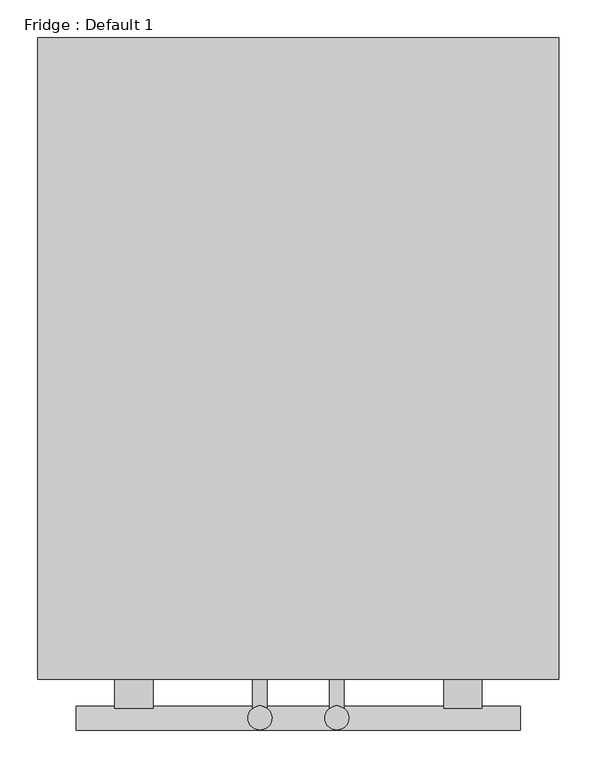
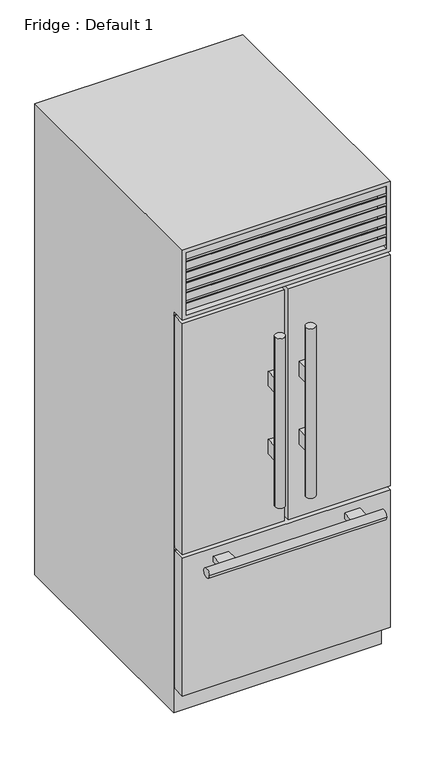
"""IFC4 building model written with IfcOpenShell, lengths in millimetres: proxy geometry, Fridge : Default 1."""

from ifc_helpers import new_model, si_unit, frame, origin, place, context, project, spatial, polyline, circle_curve, ellipse_curve, outline, extrude, faceted_brep, source, transform, mapped, element, save
from ifc_brep_helpers import plane_surface, cylinder_surface, advanced_brep


def fridge_default_1_1eb3d78d(model_context):
    return source(origin(), model_context, "Body", "SolidModel", [
        extrude(outline(polyline([(-344.3405375, -902.2654366), (-6.35, -902.2654366), (-6.35, -946.7154366), (-344.3405375, -946.7154366), (-344.3405375, -902.2654366)])), frame((0.0, 0.0, 584.2), z_axis=(0.0, 0.0, 1.0), x_axis=(1.0, 0.0, 0.0)), (0.0, 0.0, 1.0), 809.625),
        extrude(outline(polyline([(6.35, -902.2654366), (344.3405375, -902.2654366), (344.3405375, -946.7154366), (6.35, -946.7154366), (6.35, -902.2654366)])), frame((0.0, 0.0, 584.2), z_axis=(0.0, 0.0, 1.0), x_axis=(1.0, 0.0, 0.0)), (0.0, 0.0, 1.0), 809.625),
        extrude(outline(polyline([(-344.3405375, -902.2654366), (344.3405375, -902.2654366), (344.3405375, -946.7154366), (-344.3405375, -946.7154366), (-344.3405375, -902.2654366)])), frame((0.0, 0.0, 88.9), z_axis=(0.0, 0.0, 1.0), x_axis=(1.0, 0.0, 0.0)), (0.0, 0.0, 1.0), 482.6),
        faceted_brep([(344.3405375, -946.7154366, 1651.0), (-344.3405375, -946.7154366, 1651.0), (-344.3405375, -946.7154366, 1406.525), (344.3405375, -946.7154366, 1406.525), (331.6405375, -946.7154366, 1638.3), (331.6405375, -946.7154366, 1419.225), (-331.6405375, -946.7154366, 1419.225), (-331.6405375, -946.7154366, 1638.3), (344.3405375, -100.0, 1651.0), (-344.3405375, -100.0, 1651.0), (-344.3405375, -100.0, 0.0), (-344.3405375, -895.9154366, 0.0), (-344.3405375, -895.9154366, 1406.525), (344.3405375, -895.9154366, 1406.525), (344.3405375, -895.9154366, 0.0), (344.3405375, -100.0, 0.0), (-331.6405375, -895.9154366, 1638.3), (331.6405375, -895.9154366, 1638.3), (-331.6405375, -895.9154366, 1419.225), (331.6405375, -895.9154366, 1419.225)], [[[0, 1, 2, 3], [4, 5, 6, 7]], [[1, 0, 8, 9]], [[2, 1, 9, 10, 11, 12]], [[3, 2, 12, 13]], [[8, 0, 3, 13, 14, 15]], [[4, 7, 16, 17]], [[7, 6, 18, 16]], [[6, 5, 19, 18]], [[5, 4, 17, 19]], [[15, 14, 11, 10]], [[9, 8, 15, 10]], [[17, 16, 18, 19]], [[11, 14, 13, 12]]]),
        extrude(outline(polyline([(-895.9154366, 1419.225), (-943.5404366, 1431.9860803), (-943.5404366, 1457.3860803), (-940.3654366, 1457.3860803), (-940.3654366, 1434.5368938), (-895.9154366, 1422.6265522), (-895.9154366, 1419.225)])), frame((-331.6405375, 0.0, 0.0), z_axis=(1.0, 0.0, 0.0), x_axis=(0.0, 1.0, 0.0)), (0.0, 0.0, 1.0), 663.281075),
        extrude(outline(polyline([(-895.9154366, 1455.4077839), (-943.5404366, 1468.1688642), (-943.5404366, 1493.5688642), (-940.3654366, 1493.5688642), (-940.3654366, 1470.7196777), (-895.9154366, 1458.8093361), (-895.9154366, 1455.4077839)])), frame((-331.6405375, 0.0, 0.0), z_axis=(1.0, 0.0, 0.0), x_axis=(0.0, 1.0, 0.0)), (0.0, 0.0, 1.0), 663.281075),
        extrude(outline(polyline([(-895.9154366, 1491.5905679), (-943.5404366, 1504.3516482), (-943.5404366, 1529.7516482), (-940.3654366, 1529.7516482), (-940.3654366, 1506.9024616), (-895.9154366, 1494.99212), (-895.9154366, 1491.5905679)])), frame((-331.6405375, 0.0, 0.0), z_axis=(1.0, 0.0, 0.0), x_axis=(0.0, 1.0, 0.0)), (0.0, 0.0, 1.0), 663.281075),
        extrude(outline(polyline([(-895.9154366, 1527.7733518), (-943.5404366, 1540.5344321), (-943.5404366, 1565.9344321), (-940.3654366, 1565.9344321), (-940.3654366, 1543.0852456), (-895.9154366, 1531.174904), (-895.9154366, 1527.7733518)])), frame((-331.6405375, 0.0, 0.0), z_axis=(1.0, 0.0, 0.0), x_axis=(0.0, 1.0, 0.0)), (0.0, 0.0, 1.0), 663.281075),
        extrude(outline(polyline([(-895.9154366, 1563.9561358), (-943.5404366, 1576.7172161), (-943.5404366, 1602.1172161), (-940.3654366, 1602.1172161), (-940.3654366, 1579.2680295), (-895.9154366, 1567.3576879), (-895.9154366, 1563.9561358)])), frame((-331.6405375, 0.0, 0.0), z_axis=(1.0, 0.0, 0.0), x_axis=(0.0, 1.0, 0.0)), (0.0, 0.0, 1.0), 663.281075),
        extrude(outline(polyline([(-895.9154366, 1600.1389197), (-943.5404366, 1612.9), (-943.5404366, 1638.3), (-940.3654366, 1638.3), (-940.3654366, 1615.4508135), (-895.9154366, 1603.5404719), (-895.9154366, 1600.1389197)])), frame((-331.6405375, 0.0, 0.0), z_axis=(1.0, 0.0, 0.0), x_axis=(0.0, 1.0, 0.0)), (0.0, 0.0, 1.0), 663.281075),
        advanced_brep(
        [(-337.9905375, -895.9154366, 565.15), (-337.9905375, -902.2654366, 565.15), (-337.9905375, -902.2654366, 95.25), (-337.9905375, -895.9154366, 95.25), (-341.1655375, -902.2654366, 568.325), (-341.1655375, -895.9154366, 568.325), (-341.1655375, -895.9154366, 92.075), (-341.1655375, -902.2654366, 92.075), (337.9905375, -902.2654366, 95.25), (337.9905375, -895.9154366, 95.25), (341.1655375, -895.9154366, 92.075), (341.1655375, -902.2654366, 92.075), (337.9905375, -902.2654366, 565.15), (337.9905375, -895.9154366, 565.15), (341.1655375, -895.9154366, 568.325), (341.1655375, -902.2654366, 568.325)],
        [
            (0, 1),
            (1, 2),
            (2, 3),
            (3, 0),
            (4, 5, ellipse_curve(frame((-341.1655375, -899.0904366, 568.325), z_axis=(-0.7071067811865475, 0.0, -0.7071067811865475), x_axis=(-0.7071067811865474, 0.0, 0.7071067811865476)), 4.4901281, 3.175)),
            (5, 6),
            (6, 7, ellipse_curve(frame((-341.1655375, -899.0904366, 92.075), z_axis=(-0.7071067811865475, 0.0, 0.7071067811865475), x_axis=(0.7071067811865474, 0.0, 0.7071067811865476)), 4.4901281, 3.175)),
            (7, 4),
            (2, 8),
            (8, 9),
            (9, 3),
            (6, 10),
            (10, 11, ellipse_curve(frame((341.1655375, -899.0904366, 92.075), z_axis=(-0.7071067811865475, 0.0, -0.7071067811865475), x_axis=(-0.7071067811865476, 0.0, 0.7071067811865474)), 4.4901281, 3.175)),
            (11, 7),
            (8, 12),
            (12, 13),
            (13, 9),
            (10, 14),
            (14, 15, ellipse_curve(frame((341.1655375, -899.0904366, 568.325), z_axis=(0.7071067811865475, 0.0, -0.7071067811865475), x_axis=(-0.7071067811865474, 0.0, -0.7071067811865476)), 4.4901281, 3.175)),
            (15, 11),
            (12, 1),
            (0, 13),
            (5, 14),
            (4, 15),
        ],
        [
            plane_surface(frame((-337.9905375, -902.2654366, 565.15), z_axis=(1.0, 0.0, 0.0), x_axis=(0.0, 0.0, -1.0))),
            cylinder_surface(frame((-341.1655375, -899.0904366, 571.5), z_axis=(0.0, 0.0, 1.0), x_axis=(0.0, -1.0, 0.0)), 3.175),
            plane_surface(frame((-337.9905375, -902.2654366, 95.25), z_axis=(0.0, 0.0, 1.0), x_axis=(1.0, 0.0, 0.0))),
            cylinder_surface(frame((-344.3405375, -899.0904366, 92.075), z_axis=(-1.0, 0.0, 0.0), x_axis=(0.0, -1.0, 0.0)), 3.175),
            plane_surface(frame((337.9905375, -902.2654366, 95.25), z_axis=(-1.0, 0.0, 0.0), x_axis=(0.0, 0.0, 1.0))),
            cylinder_surface(frame((341.1655375, -899.0904366, 88.9), z_axis=(0.0, 0.0, -1.0), x_axis=(0.0, -1.0, 0.0)), 3.175),
            plane_surface(frame((337.9905375, -902.2654366, 565.15), z_axis=(0.0, 0.0, -1.0), x_axis=(-1.0, 0.0, 0.0))),
            plane_surface(frame((337.9905375, -895.9154366, 565.15), z_axis=(0.0, 1.0, 0.0), x_axis=(-1.0, 0.0, 0.0))),
            cylinder_surface(frame((344.3405375, -899.0904366, 568.325), z_axis=(1.0, 0.0, 0.0), x_axis=(0.0, -1.0, 0.0)), 3.175),
            plane_surface(frame((341.1655375, -902.2654366, 568.325), z_axis=(0.0, -1.0, 0.0), x_axis=(-1.0, 0.0, 0.0))),
        ],
        [
            (0, [[1, 2, 3, 4]]),
            (1, [[5, 6, 7, 8]]),
            (2, [[-3, 9, 10, 11]]),
            (3, [[-7, 12, 13, 14]]),
            (4, [[-10, 15, 16, 17]]),
            (5, [[-13, 18, 19, 20]]),
            (6, [[-16, 21, -1, 22]]),
            (7, [[23, -18, -12, -6], [-11, -17, -22, -4]]),
            (8, [[-19, -23, -5, 24]]),
            (9, [[-14, -20, -24, -8], [-21, -15, -9, -2]]),
        ],
    ),
        advanced_brep(
        [(12.7, -895.9154366, 1387.475), (12.7, -902.2654366, 1387.475), (12.7, -902.2654366, 590.55), (12.7, -895.9154366, 590.55), (9.525, -902.2654366, 1390.65), (9.525, -895.9154366, 1390.65), (9.525, -895.9154366, 587.375), (9.525, -902.2654366, 587.375), (337.9905375, -902.2654366, 590.55), (337.9905375, -895.9154366, 590.55), (341.1655375, -895.9154366, 587.375), (341.1655375, -902.2654366, 587.375), (337.9905375, -902.2654366, 1387.475), (337.9905375, -895.9154366, 1387.475), (341.1655375, -895.9154366, 1390.65), (341.1655375, -902.2654366, 1390.65)],
        [
            (0, 1),
            (1, 2),
            (2, 3),
            (3, 0),
            (4, 5, ellipse_curve(frame((9.525, -899.0904366, 1390.65), z_axis=(-0.7071067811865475, 0.0, -0.7071067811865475), x_axis=(-0.7071067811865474, 0.0, 0.7071067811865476)), 4.4901281, 3.175)),
            (5, 6),
            (6, 7, ellipse_curve(frame((9.525, -899.0904366, 587.375), z_axis=(-0.7071067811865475, 0.0, 0.7071067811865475), x_axis=(0.7071067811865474, 0.0, 0.7071067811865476)), 4.4901281, 3.175)),
            (7, 4),
            (2, 8),
            (8, 9),
            (9, 3),
            (6, 10),
            (10, 11, ellipse_curve(frame((341.1655375, -899.0904366, 587.375), z_axis=(-0.7071067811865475, 0.0, -0.7071067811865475), x_axis=(-0.7071067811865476, 0.0, 0.7071067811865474)), 4.4901281, 3.175)),
            (11, 7),
            (8, 12),
            (12, 13),
            (13, 9),
            (10, 14),
            (14, 15, ellipse_curve(frame((341.1655375, -899.0904366, 1390.65), z_axis=(0.7071067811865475, 0.0, -0.7071067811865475), x_axis=(-0.7071067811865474, 0.0, -0.7071067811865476)), 4.4901281, 3.175)),
            (15, 11),
            (12, 1),
            (0, 13),
            (5, 14),
            (4, 15),
        ],
        [
            plane_surface(frame((12.7, -902.2654366, 1387.475), z_axis=(1.0, 0.0, 0.0), x_axis=(0.0, 0.0, -1.0))),
            cylinder_surface(frame((9.525, -899.0904366, 1393.825), z_axis=(0.0, 0.0, 1.0), x_axis=(0.0, -1.0, 0.0)), 3.175),
            plane_surface(frame((12.7, -902.2654366, 590.55), z_axis=(0.0, 0.0, 1.0), x_axis=(1.0, 0.0, 0.0))),
            cylinder_surface(frame((6.35, -899.0904366, 587.375), z_axis=(-1.0, 0.0, 0.0), x_axis=(0.0, -1.0, 0.0)), 3.175),
            plane_surface(frame((337.9905375, -902.2654366, 590.55), z_axis=(-1.0, 0.0, 0.0), x_axis=(0.0, 0.0, 1.0))),
            cylinder_surface(frame((341.1655375, -899.0904366, 584.2), z_axis=(0.0, 0.0, -1.0), x_axis=(0.0, -1.0, 0.0)), 3.175),
            plane_surface(frame((337.9905375, -902.2654366, 1387.475), z_axis=(0.0, 0.0, -1.0), x_axis=(-1.0, 0.0, 0.0))),
            plane_surface(frame((337.9905375, -895.9154366, 1387.475), z_axis=(0.0, 1.0, 0.0), x_axis=(-1.0, 0.0, 0.0))),
            cylinder_surface(frame((344.3405375, -899.0904366, 1390.65), z_axis=(1.0, 0.0, 0.0), x_axis=(0.0, -1.0, 0.0)), 3.175),
            plane_surface(frame((341.1655375, -902.2654366, 1390.65), z_axis=(0.0, -1.0, 0.0), x_axis=(-1.0, 0.0, 0.0))),
        ],
        [
            (0, [[1, 2, 3, 4]]),
            (1, [[5, 6, 7, 8]]),
            (2, [[-3, 9, 10, 11]]),
            (3, [[-7, 12, 13, 14]]),
            (4, [[-10, 15, 16, 17]]),
            (5, [[-13, 18, 19, 20]]),
            (6, [[-16, 21, -1, 22]]),
            (7, [[23, -18, -12, -6], [-11, -17, -22, -4]]),
            (8, [[-19, -23, -5, 24]]),
            (9, [[-14, -20, -24, -8], [-21, -15, -9, -2]]),
        ],
    ),
        advanced_brep(
        [(-337.9905375, -895.9154366, 1387.475), (-337.9905375, -902.2654366, 1387.475), (-337.9905375, -902.2654366, 590.55), (-337.9905375, -895.9154366, 590.55), (-341.1655375, -902.2654366, 1390.65), (-341.1655375, -895.9154366, 1390.65), (-341.1655375, -895.9154366, 587.375), (-341.1655375, -902.2654366, 587.375), (-12.7, -902.2654366, 590.55), (-12.7, -895.9154366, 590.55), (-9.525, -895.9154366, 587.375), (-9.525, -902.2654366, 587.375), (-12.7, -902.2654366, 1387.475), (-12.7, -895.9154366, 1387.475), (-9.525, -895.9154366, 1390.65), (-9.525, -902.2654366, 1390.65)],
        [
            (0, 1),
            (1, 2),
            (2, 3),
            (3, 0),
            (4, 5, ellipse_curve(frame((-341.1655375, -899.0904366, 1390.65), z_axis=(-0.7071067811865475, 0.0, -0.7071067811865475), x_axis=(-0.7071067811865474, 0.0, 0.7071067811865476)), 4.4901281, 3.175)),
            (5, 6),
            (6, 7, ellipse_curve(frame((-341.1655375, -899.0904366, 587.375), z_axis=(-0.7071067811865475, 0.0, 0.7071067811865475), x_axis=(0.7071067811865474, 0.0, 0.7071067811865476)), 4.4901281, 3.175)),
            (7, 4),
            (2, 8),
            (8, 9),
            (9, 3),
            (6, 10),
            (10, 11, ellipse_curve(frame((-9.525, -899.0904366, 587.375), z_axis=(-0.7071067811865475, 0.0, -0.7071067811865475), x_axis=(-0.7071067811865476, 0.0, 0.7071067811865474)), 4.4901281, 3.175)),
            (11, 7),
            (8, 12),
            (12, 13),
            (13, 9),
            (10, 14),
            (14, 15, ellipse_curve(frame((-9.525, -899.0904366, 1390.65), z_axis=(0.7071067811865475, 0.0, -0.7071067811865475), x_axis=(-0.7071067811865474, 0.0, -0.7071067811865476)), 4.4901281, 3.175)),
            (15, 11),
            (12, 1),
            (0, 13),
            (5, 14),
            (4, 15),
        ],
        [
            plane_surface(frame((-337.9905375, -902.2654366, 1387.475), z_axis=(1.0, 0.0, 0.0), x_axis=(0.0, 0.0, -1.0))),
            cylinder_surface(frame((-341.1655375, -899.0904366, 1393.825), z_axis=(0.0, 0.0, 1.0), x_axis=(0.0, -1.0, 0.0)), 3.175),
            plane_surface(frame((-337.9905375, -902.2654366, 590.55), z_axis=(0.0, 0.0, 1.0), x_axis=(1.0, 0.0, 0.0))),
            cylinder_surface(frame((-344.3405375, -899.0904366, 587.375), z_axis=(-1.0, 0.0, 0.0), x_axis=(0.0, -1.0, 0.0)), 3.175),
            plane_surface(frame((-12.7, -902.2654366, 590.55), z_axis=(-1.0, 0.0, 0.0), x_axis=(0.0, 0.0, 1.0))),
            cylinder_surface(frame((-9.525, -899.0904366, 584.2), z_axis=(0.0, 0.0, -1.0), x_axis=(0.0, -1.0, 0.0)), 3.175),
            plane_surface(frame((-12.7, -902.2654366, 1387.475), z_axis=(0.0, 0.0, -1.0), x_axis=(-1.0, 0.0, 0.0))),
            plane_surface(frame((-12.7, -895.9154366, 1387.475), z_axis=(0.0, 1.0, 0.0), x_axis=(-1.0, 0.0, 0.0))),
            cylinder_surface(frame((-6.35, -899.0904366, 1390.65), z_axis=(1.0, 0.0, 0.0), x_axis=(0.0, -1.0, 0.0)), 3.175),
            plane_surface(frame((-9.525, -902.2654366, 1390.65), z_axis=(0.0, -1.0, 0.0), x_axis=(-1.0, 0.0, 0.0))),
        ],
        [
            (0, [[1, 2, 3, 4]]),
            (1, [[5, 6, 7, 8]]),
            (2, [[-3, 9, 10, 11]]),
            (3, [[-7, 12, 13, 14]]),
            (4, [[-10, 15, 16, 17]]),
            (5, [[-13, 18, 19, 20]]),
            (6, [[-16, 21, -1, 22]]),
            (7, [[23, -18, -12, -6], [-11, -17, -22, -4]]),
            (8, [[-19, -23, -5, 24]]),
            (9, [[-14, -20, -24, -8], [-21, -15, -9, -2]]),
        ],
    ),
        advanced_brep(
        [(-191.9405375, -946.7154366, 542.925), (-191.9405375, -946.7154366, 523.875), (-242.7405375, -946.7154366, 523.875), (-242.7405375, -946.7154366, 542.925), (191.9405375, -946.7154366, 542.925), (242.7405375, -946.7154366, 542.925), (242.7405375, -946.7154366, 523.875), (191.9405375, -946.7154366, 523.875), (-191.9405375, -985.1896324, 542.925), (-191.9405375, -982.0146324, 533.4), (-191.9405375, -985.1896324, 523.875), (-242.7405375, -985.1896324, 523.875), (-242.7405375, -982.0146324, 533.4), (-242.7405375, -985.1896324, 542.925), (191.9405375, -985.1896324, 542.925), (242.7405375, -985.1896324, 542.925), (242.7405375, -982.0146324, 533.4), (242.7405375, -985.1896324, 523.875), (191.9405375, -985.1896324, 523.875), (191.9405375, -982.0146324, 533.4), (293.5405375, -1013.7646324, 533.4), (293.5405375, -982.0146324, 533.4), (-293.5405375, -1013.7646324, 533.4), (-293.5405375, -982.0146324, 533.4)],
        [
            (0, 1),
            (1, 2),
            (2, 3),
            (3, 0),
            (4, 5),
            (5, 6),
            (6, 7),
            (7, 4),
            (0, 8),
            (8, 9, circle_curve(frame((-191.9405375, -997.8896324, 533.4), z_axis=(-1.0, 0.0, 0.0), x_axis=(0.0, 1.0, 0.0)), 15.875)),
            (9, 10, circle_curve(frame((-191.9405375, -997.8896324, 533.4), z_axis=(-1.0, 0.0, 0.0), x_axis=(0.0, 1.0, 0.0)), 15.875)),
            (10, 1),
            (10, 11),
            (11, 2),
            (11, 12, circle_curve(frame((-242.7405375, -997.8896324, 533.4), z_axis=(1.0, 0.0, 0.0), x_axis=(0.0, 1.0, 0.0)), 15.875)),
            (12, 13, circle_curve(frame((-242.7405375, -997.8896324, 533.4), z_axis=(1.0, 0.0, 0.0), x_axis=(0.0, 1.0, 0.0)), 15.875)),
            (13, 3),
            (13, 8),
            (4, 14),
            (14, 15),
            (15, 5),
            (15, 16, circle_curve(frame((242.7405375, -997.8896324, 533.4), z_axis=(-1.0, 0.0, 0.0), x_axis=(0.0, 1.0, 0.0)), 15.875)),
            (16, 17, circle_curve(frame((242.7405375, -997.8896324, 533.4), z_axis=(-1.0, 0.0, 0.0), x_axis=(0.0, 1.0, 0.0)), 15.875)),
            (17, 6),
            (17, 18),
            (18, 7),
            (18, 19, circle_curve(frame((191.9405375, -997.8896324, 533.4), z_axis=(1.0, 0.0, 0.0), x_axis=(0.0, 1.0, 0.0)), 15.875)),
            (19, 14, circle_curve(frame((191.9405375, -997.8896324, 533.4), z_axis=(1.0, 0.0, 0.0), x_axis=(0.0, 1.0, 0.0)), 15.875)),
            (20, 21, circle_curve(frame((293.5405375, -997.8896324, 533.4), z_axis=(1.0, 0.0, 0.0), x_axis=(0.0, 1.0, 0.0)), 15.875)),
            (21, 20, circle_curve(frame((293.5405375, -997.8896324, 533.4), z_axis=(1.0, 0.0, 0.0), x_axis=(0.0, 1.0, 0.0)), 15.875)),
            (22, 23, circle_curve(frame((-293.5405375, -997.8896324, 533.4), z_axis=(-1.0, 0.0, 0.0), x_axis=(0.0, 1.0, 0.0)), 15.875)),
            (23, 22, circle_curve(frame((-293.5405375, -997.8896324, 533.4), z_axis=(-1.0, 0.0, 0.0), x_axis=(0.0, 1.0, 0.0)), 15.875)),
            (20, 22),
            (23, 12),
            (9, 19),
            (16, 21),
        ],
        [
            plane_surface(frame((-191.9405375, -946.7154366, 542.925), z_axis=(0.0, 1.0, 0.0), x_axis=(0.0, 0.0, -1.0))),
            plane_surface(frame((-191.9405375, -946.7154366, 542.925), z_axis=(1.0, 0.0, 0.0), x_axis=(0.0, -1.0, 0.0))),
            plane_surface(frame((-191.9405375, -946.7154366, 523.875), z_axis=(0.0, 0.0, -1.0), x_axis=(0.0, -1.0, 0.0))),
            plane_surface(frame((-242.7405375, -946.7154366, 523.875), z_axis=(-1.0, 0.0, 0.0), x_axis=(0.0, -1.0, 0.0))),
            plane_surface(frame((-242.7405375, -946.7154366, 542.925), z_axis=(0.0, 0.0, 1.0), x_axis=(0.0, -1.0, 0.0))),
            plane_surface(frame((191.9405375, -946.7154366, 542.925), z_axis=(0.0, 0.0, 1.0), x_axis=(0.0, -1.0, 0.0))),
            plane_surface(frame((242.7405375, -946.7154366, 542.925), z_axis=(1.0, 0.0, 0.0), x_axis=(0.0, -1.0, 0.0))),
            plane_surface(frame((242.7405375, -946.7154366, 523.875), z_axis=(0.0, 0.0, -1.0), x_axis=(0.0, -1.0, 0.0))),
            plane_surface(frame((191.9405375, -946.7154366, 523.875), z_axis=(-1.0, 0.0, 0.0), x_axis=(0.0, -1.0, 0.0))),
            plane_surface(frame((293.5405375, -982.0146324, 533.4), z_axis=(1.0, 0.0, 0.0), x_axis=(0.0, 0.0, 1.0))),
            plane_surface(frame((-293.5405375, -982.0146324, 533.4), z_axis=(-1.0, 0.0, 0.0), x_axis=(0.0, 0.0, -1.0))),
            cylinder_surface(frame((-293.5405375, -997.8896324, 533.4), z_axis=(1.0, 0.0, 0.0), x_axis=(0.0, 1.0, 0.0)), 15.875),
        ],
        [
            (0, [[1, 2, 3, 4]]),
            (0, [[5, 6, 7, 8]]),
            (1, [[-1, 9, 10, 11, 12]]),
            (2, [[-2, -12, 13, 14]]),
            (3, [[-3, -14, 15, 16, 17]]),
            (4, [[-4, -17, 18, -9]]),
            (5, [[-5, 19, 20, 21]]),
            (6, [[-6, -21, 22, 23, 24]]),
            (7, [[-7, -24, 25, 26]]),
            (8, [[-8, -26, 27, 28, -19]]),
            (9, [[29, 30]]),
            (10, [[31, 32]]),
            (11, [[-29, 33, -32, 34, -15, -13, -11, 35, -27, -25, -23, 36]]),
            (11, [[-30, -36, -22, -20, -28, -35, -10, -18, -16, -34, -31, -33]]),
        ],
    ),
        advanced_brep(
        [(34.925, -997.8896324, 1279.525), (66.675, -997.8896324, 1279.525), (34.925, -997.8896324, 685.8), (66.675, -997.8896324, 685.8), (60.325, -985.1896324, 1076.325), (60.325, -985.1896324, 1127.125), (41.275, -985.1896324, 1127.125), (41.275, -985.1896324, 1076.325), (60.325, -985.1896324, 838.2), (60.325, -985.1896324, 889.0), (41.275, -985.1896324, 889.0), (41.275, -985.1896324, 838.2), (60.325, -946.7154366, 1127.125), (60.325, -946.7154366, 1076.325), (41.275, -946.7154366, 1076.325), (41.275, -946.7154366, 1127.125), (60.325, -946.7154366, 889.0), (60.325, -946.7154366, 838.2), (41.275, -946.7154366, 838.2), (41.275, -946.7154366, 889.0)],
        [
            (0, 1, circle_curve(frame((50.8, -997.8896324, 1279.525), z_axis=(0.0, 0.0, 1.0), x_axis=(1.0, 0.0, 0.0)), 15.875)),
            (1, 0, circle_curve(frame((50.8, -997.8896324, 1279.525), z_axis=(0.0, 0.0, 1.0), x_axis=(1.0, 0.0, 0.0)), 15.875)),
            (2, 3, circle_curve(frame((50.8, -997.8896324, 685.8), z_axis=(0.0, 0.0, -1.0), x_axis=(1.0, 0.0, 0.0)), 15.875)),
            (3, 2, circle_curve(frame((50.8, -997.8896324, 685.8), z_axis=(0.0, 0.0, -1.0), x_axis=(1.0, 0.0, 0.0)), 15.875)),
            (0, 2),
            (3, 1),
            (4, 5),
            (5, 6, circle_curve(frame((50.8, -997.8896324, 1127.125), z_axis=(0.0, 0.0, 1.0), x_axis=(1.0, 0.0, 0.0)), 15.875)),
            (6, 7),
            (7, 4, circle_curve(frame((50.8, -997.8896324, 1076.325), z_axis=(0.0, 0.0, -1.0), x_axis=(1.0, 0.0, 0.0)), 15.875)),
            (8, 9),
            (9, 10, circle_curve(frame((50.8, -997.8896324, 889.0), z_axis=(0.0, 0.0, 1.0), x_axis=(1.0, 0.0, 0.0)), 15.875)),
            (10, 11),
            (11, 8, circle_curve(frame((50.8, -997.8896324, 838.2), z_axis=(0.0, 0.0, -1.0), x_axis=(1.0, 0.0, 0.0)), 15.875)),
            (12, 13),
            (13, 14),
            (14, 15),
            (15, 12),
            (16, 17),
            (17, 18),
            (18, 19),
            (19, 16),
            (12, 5),
            (4, 13),
            (7, 14),
            (6, 15),
            (16, 9),
            (8, 17),
            (11, 18),
            (10, 19),
        ],
        [
            plane_surface(frame((66.675, -997.8896324, 1279.525), z_axis=(0.0, 0.0, 1.0), x_axis=(0.0, 1.0, 0.0))),
            plane_surface(frame((66.675, -997.8896324, 685.8), z_axis=(0.0, 0.0, -1.0), x_axis=(0.0, -1.0, 0.0))),
            cylinder_surface(frame((50.8, -997.8896324, 685.8), z_axis=(0.0, 0.0, 1.0), x_axis=(1.0, 0.0, 0.0)), 15.875),
            plane_surface(frame((60.325, -946.7154366, 1127.125), z_axis=(0.0, 1.0, 0.0), x_axis=(0.0, 0.0, -1.0))),
            plane_surface(frame((60.325, -946.7154366, 1127.125), z_axis=(1.0, 0.0, 0.0), x_axis=(0.0, -1.0, 0.0))),
            plane_surface(frame((60.325, -946.7154366, 1076.325), z_axis=(0.0, 0.0, -1.0), x_axis=(0.0, -1.0, 0.0))),
            plane_surface(frame((41.275, -946.7154366, 1076.325), z_axis=(-1.0, 0.0, 0.0), x_axis=(0.0, -1.0, 0.0))),
            plane_surface(frame((41.275, -946.7154366, 1127.125), z_axis=(0.0, 0.0, 1.0), x_axis=(0.0, -1.0, 0.0))),
            plane_surface(frame((60.325, -946.7154366, 889.0), z_axis=(1.0, 0.0, 0.0), x_axis=(0.0, -1.0, 0.0))),
            plane_surface(frame((60.325, -946.7154366, 838.2), z_axis=(0.0, 0.0, -1.0), x_axis=(0.0, -1.0, 0.0))),
            plane_surface(frame((41.275, -946.7154366, 838.2), z_axis=(-1.0, 0.0, 0.0), x_axis=(0.0, -1.0, 0.0))),
            plane_surface(frame((41.275, -946.7154366, 889.0), z_axis=(0.0, 0.0, 1.0), x_axis=(0.0, -1.0, 0.0))),
        ],
        [
            (0, [[1, 2]]),
            (1, [[3, 4]]),
            (2, [[-1, 5, -4, 6]]),
            (2, [[-2, -6, -3, -5], [7, 8, 9, 10], [11, 12, 13, 14]]),
            (3, [[15, 16, 17, 18]]),
            (3, [[19, 20, 21, 22]]),
            (4, [[-15, 23, -7, 24]]),
            (5, [[-16, -24, -10, 25]]),
            (6, [[-17, -25, -9, 26]]),
            (7, [[-18, -26, -8, -23]]),
            (8, [[-19, 27, -11, 28]]),
            (9, [[-20, -28, -14, 29]]),
            (10, [[-21, -29, -13, 30]]),
            (11, [[-22, -30, -12, -27]]),
        ],
    ),
        advanced_brep(
        [(-41.275, -946.7154366, 1127.125), (-41.275, -946.7154366, 1076.325), (-60.325, -946.7154366, 1076.325), (-60.325, -946.7154366, 1127.125), (-41.275, -946.7154366, 889.0), (-41.275, -946.7154366, 838.2), (-60.325, -946.7154366, 838.2), (-60.325, -946.7154366, 889.0), (-41.275, -985.1896324, 1127.125), (-41.275, -985.1896324, 1076.325), (-60.325, -985.1896324, 1076.325), (-60.325, -985.1896324, 1127.125), (-41.275, -985.1896324, 889.0), (-41.275, -985.1896324, 838.2), (-60.325, -985.1896324, 838.2), (-60.325, -985.1896324, 889.0), (-66.675, -997.8896324, 1279.525), (-34.925, -997.8896324, 1279.525), (-66.675, -997.8896324, 685.8), (-34.925, -997.8896324, 685.8)],
        [
            (0, 1),
            (1, 2),
            (2, 3),
            (3, 0),
            (4, 5),
            (5, 6),
            (6, 7),
            (7, 4),
            (0, 8),
            (8, 9),
            (9, 1),
            (9, 10, circle_curve(frame((-50.8, -997.8896324, 1076.325), z_axis=(0.0, 0.0, 1.0), x_axis=(1.0, 0.0, 0.0)), 15.875)),
            (10, 2),
            (10, 11),
            (11, 3),
            (11, 8, circle_curve(frame((-50.8, -997.8896324, 1127.125), z_axis=(0.0, 0.0, -1.0), x_axis=(1.0, 0.0, 0.0)), 15.875)),
            (4, 12),
            (12, 13),
            (13, 5),
            (13, 14, circle_curve(frame((-50.8, -997.8896324, 838.2), z_axis=(0.0, 0.0, 1.0), x_axis=(1.0, 0.0, 0.0)), 15.875)),
            (14, 6),
            (14, 15),
            (15, 7),
            (15, 12, circle_curve(frame((-50.8, -997.8896324, 889.0), z_axis=(0.0, 0.0, -1.0), x_axis=(1.0, 0.0, 0.0)), 15.875)),
            (16, 17, circle_curve(frame((-50.8, -997.8896324, 1279.525), z_axis=(0.0, 0.0, 1.0), x_axis=(1.0, 0.0, 0.0)), 15.875)),
            (17, 16, circle_curve(frame((-50.8, -997.8896324, 1279.525), z_axis=(0.0, 0.0, 1.0), x_axis=(1.0, 0.0, 0.0)), 15.875)),
            (18, 19, circle_curve(frame((-50.8, -997.8896324, 685.8), z_axis=(0.0, 0.0, -1.0), x_axis=(1.0, 0.0, 0.0)), 15.875)),
            (19, 18, circle_curve(frame((-50.8, -997.8896324, 685.8), z_axis=(0.0, 0.0, -1.0), x_axis=(1.0, 0.0, 0.0)), 15.875)),
            (16, 18),
            (19, 17),
        ],
        [
            plane_surface(frame((-41.275, -946.7154366, 1127.125), z_axis=(0.0, 1.0, 0.0), x_axis=(0.0, 0.0, -1.0))),
            plane_surface(frame((-41.275, -946.7154366, 1127.125), z_axis=(1.0, 0.0, 0.0), x_axis=(0.0, -1.0, 0.0))),
            plane_surface(frame((-41.275, -946.7154366, 1076.325), z_axis=(0.0, 0.0, -1.0), x_axis=(0.0, -1.0, 0.0))),
            plane_surface(frame((-60.325, -946.7154366, 1076.325), z_axis=(-1.0, 0.0, 0.0), x_axis=(0.0, -1.0, 0.0))),
            plane_surface(frame((-60.325, -946.7154366, 1127.125), z_axis=(0.0, 0.0, 1.0), x_axis=(0.0, -1.0, 0.0))),
            plane_surface(frame((-41.275, -946.7154366, 889.0), z_axis=(1.0, 0.0, 0.0), x_axis=(0.0, -1.0, 0.0))),
            plane_surface(frame((-41.275, -946.7154366, 838.2), z_axis=(0.0, 0.0, -1.0), x_axis=(0.0, -1.0, 0.0))),
            plane_surface(frame((-60.325, -946.7154366, 838.2), z_axis=(-1.0, 0.0, 0.0), x_axis=(0.0, -1.0, 0.0))),
            plane_surface(frame((-60.325, -946.7154366, 889.0), z_axis=(0.0, 0.0, 1.0), x_axis=(0.0, -1.0, 0.0))),
            plane_surface(frame((-34.925, -997.8896324, 1279.525), z_axis=(0.0, 0.0, 1.0), x_axis=(0.0, 1.0, 0.0))),
            plane_surface(frame((-34.925, -997.8896324, 685.8), z_axis=(0.0, 0.0, -1.0), x_axis=(0.0, -1.0, 0.0))),
            cylinder_surface(frame((-50.8, -997.8896324, 685.8), z_axis=(0.0, 0.0, 1.0), x_axis=(1.0, 0.0, 0.0)), 15.875),
        ],
        [
            (0, [[1, 2, 3, 4]]),
            (0, [[5, 6, 7, 8]]),
            (1, [[-1, 9, 10, 11]]),
            (2, [[-2, -11, 12, 13]]),
            (3, [[-3, -13, 14, 15]]),
            (4, [[-4, -15, 16, -9]]),
            (5, [[-5, 17, 18, 19]]),
            (6, [[-6, -19, 20, 21]]),
            (7, [[-7, -21, 22, 23]]),
            (8, [[-8, -23, 24, -17]]),
            (9, [[25, 26]]),
            (10, [[27, 28]]),
            (11, [[-25, 29, -28, 30]]),
            (11, [[-26, -30, -27, -29], [-10, -16, -14, -12], [-18, -24, -22, -20]]),
        ],
    ),
    ])


if __name__ == "__main__":
    model = new_model("IFC4")
    model_context = context("Model", 3, world=origin())
    ifc_project = project(units=[si_unit("LENGTHUNIT", "METRE", prefix="MILLI")], contexts=[model_context])
    site = spatial("IfcSite", under=ifc_project)
    building = spatial("IfcBuilding", under=site)
    placement = place(None, origin())
    fridge_default_1_shape = fridge_default_1_1eb3d78d(model_context)
    element("IfcBuildingElementProxy", 1, Name="Fridge : Default 1", ObjectType="Fridge : Default 1", at=placement, inside=building, context=model_context, shape_type="MappedRepresentation", body=[
        mapped(fridge_default_1_shape, transform((0.0, 0.0, 0.0), x_axis=(1.0, 0.0, 0.0), y_axis=(0.0, 1.0, 0.0), z_axis=(0.0, 0.0, 1.0))),
    ])
    save(model, "model.ifc")
